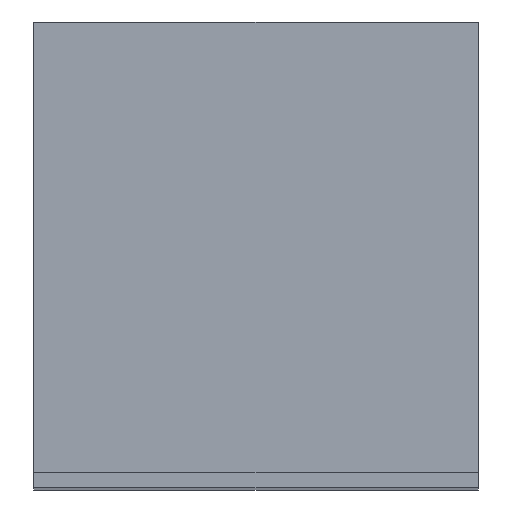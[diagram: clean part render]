
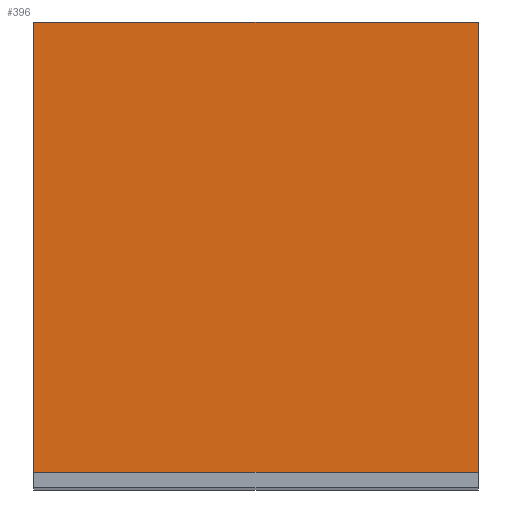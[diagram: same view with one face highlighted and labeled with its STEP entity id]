
A CAD part, top view. The second image highlights one B-rep face of the part: STEP entity #396.
In plain terms, the highlighted planar face has unit normal (0, 0, 1).
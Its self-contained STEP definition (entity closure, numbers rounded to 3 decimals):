
#396=ADVANCED_FACE('',(#1655),#17308,.T.);
#1655=FACE_OUTER_BOUND('',#2917,.T.);
#2917=EDGE_LOOP('',(#4309,#4310,#4311,#4312));
#4309=ORIENTED_EDGE('',*,*,#9853,.T.);
#4310=ORIENTED_EDGE('',*,*,#9851,.T.);
#4311=ORIENTED_EDGE('',*,*,#9848,.T.);
#4312=ORIENTED_EDGE('',*,*,#9844,.T.);
#9844=EDGE_CURVE('',#15447,#15448,#12658,.T.);
#9848=EDGE_CURVE('',#15450,#15447,#12662,.T.);
#9851=EDGE_CURVE('',#15452,#15450,#12665,.T.);
#9853=EDGE_CURVE('',#15448,#15452,#12667,.T.);
#12658=B_SPLINE_CURVE_WITH_KNOTS('',1,(#21470,#21471),.UNSPECIFIED.,.F.,
 .F.,(2,2),(-1.926,0.),.UNSPECIFIED.);
#12662=B_SPLINE_CURVE_WITH_KNOTS('',1,(#21478,#21479),.UNSPECIFIED.,.F.,
 .F.,(2,2),(-1.952,0.),.UNSPECIFIED.);
#12665=B_SPLINE_CURVE_WITH_KNOTS('',1,(#21484,#21485),.UNSPECIFIED.,.F.,
 .F.,(2,2),(-1.926,0.),.UNSPECIFIED.);
#12667=B_SPLINE_CURVE_WITH_KNOTS('',1,(#21488,#21489),.UNSPECIFIED.,.F.,
 .F.,(2,2),(-1.952,0.),.UNSPECIFIED.);
#15447=VERTEX_POINT('',#21438);
#15448=VERTEX_POINT('',#21439);
#15450=VERTEX_POINT('',#21441);
#15452=VERTEX_POINT('',#21443);
#17308=PLANE('',#18683);
#18683=AXIS2_PLACEMENT_3D('',#21426,#19966,$);
#19966=DIRECTION('',(0.,0.,1.));
#21426=CARTESIAN_POINT('',(-293.5,643.,2050.));
#21438=CARTESIAN_POINT('',(293.5,643.,2050.));
#21439=CARTESIAN_POINT('',(-293.5,643.,2050.));
#21441=CARTESIAN_POINT('',(293.5,48.,2050.));
#21443=CARTESIAN_POINT('',(-293.5,48.,2050.));
#21470=CARTESIAN_POINT('',(293.5,643.,2050.));
#21471=CARTESIAN_POINT('',(-293.5,643.,2050.));
#21478=CARTESIAN_POINT('',(293.5,48.,2050.));
#21479=CARTESIAN_POINT('',(293.5,643.,2050.));
#21484=CARTESIAN_POINT('',(-293.5,48.,2050.));
#21485=CARTESIAN_POINT('',(293.5,48.,2050.));
#21488=CARTESIAN_POINT('',(-293.5,643.,2050.));
#21489=CARTESIAN_POINT('',(-293.5,48.,2050.));
